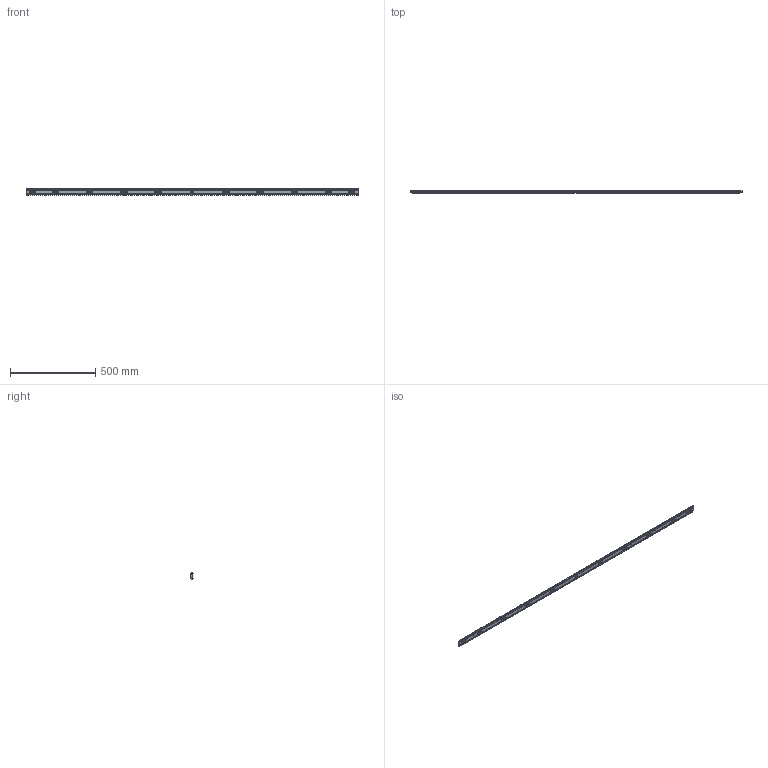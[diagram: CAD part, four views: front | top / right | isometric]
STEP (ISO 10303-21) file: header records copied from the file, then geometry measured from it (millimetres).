
FILE_DESCRIPTION(('Creo Elements/Direct Modeling STEP Export'),'2;1');
FILE_NAME('B3-1840.stp','2020-11-02T14:23:24',(''),(''),'Creo Elements/Direct Modeling STEP processor for AP214 (Solid Model)','Creo Elements/Direct Modeling 19.0G 27-Nov-2017 (C) Parametric Technology GmbH','');
FILE_SCHEMA(('AUTOMOTIVE_DESIGN { 1 0 10303 214 1 1 1 1 }'));
Products named in the file (2): PERFIL_SOPORTE_MECANIZADO_REGLA_SV3-1840
Assembly tree (1 placements, depth 2):
  PERFIL_SOPORTE_MECANIZADO_REGLA_SV3-1840
    PERFIL_SOPORTE_MECANIZADO_REGLA_SV3-1840
Bounding box: 1945 x 12.13 x 36.1 mm (x, y, z)
Volume: 463994 mm3; surface area: 244744.1 mm2
Topology: 1 solids, 1 shells, 2478 faces, 7334 edges, 4862 vertices
Faces by surface type: plane 1400, cylinder 828, cone 154, torus 48, bspline 48
Entity records: 92717 total; most frequent: CARTESIAN_POINT 20312, ORIENTED_EDGE 14644, DIRECTION 12416, EDGE_CURVE 7322, VERTEX_POINT 4862, VECTOR 4180, LINE 4180, AXIS2_PLACEMENT_3D 4118
